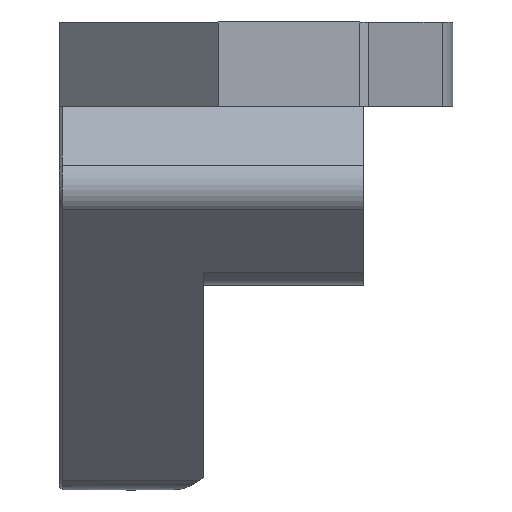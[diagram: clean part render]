
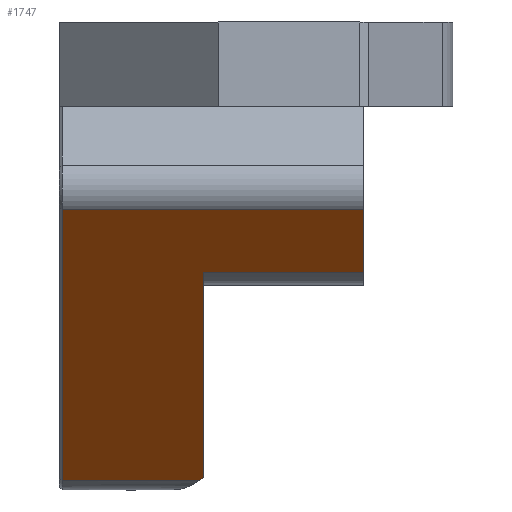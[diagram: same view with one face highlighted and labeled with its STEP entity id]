
A CAD part, left-side view. The second image highlights one B-rep face of the part: STEP entity #1747.
In plain terms, the highlighted planar face has unit normal (-0.707, 0, -0.707).
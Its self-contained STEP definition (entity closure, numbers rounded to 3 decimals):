
#27=ELLIPSE('',#1817,16.546,11.7);
#264=FACE_OUTER_BOUND('',#368,.T.);
#368=EDGE_LOOP('',(#1430,#1431,#1432,#1433,#1434,#1435,#1436));
#449=LINE('',#3348,#588);
#499=LINE('',#3504,#638);
#507=LINE('',#3522,#646);
#508=LINE('',#3525,#647);
#509=LINE('',#3527,#648);
#510=LINE('',#3528,#649);
#588=VECTOR('',#2038,10.);
#638=VECTOR('',#2192,10.);
#646=VECTOR('',#2210,10.);
#647=VECTOR('',#2215,10.);
#648=VECTOR('',#2216,10.);
#649=VECTOR('',#2217,10.);
#773=VERTEX_POINT('',#3321);
#774=VERTEX_POINT('',#3323);
#780=VERTEX_POINT('',#3347);
#833=VERTEX_POINT('',#3499);
#834=VERTEX_POINT('',#3503);
#839=VERTEX_POINT('',#3521);
#840=VERTEX_POINT('',#3526);
#967=EDGE_CURVE('',#774,#773,#27,.T.);
#974=EDGE_CURVE('',#773,#780,#449,.T.);
#1053=EDGE_CURVE('',#833,#834,#499,.T.);
#1062=EDGE_CURVE('',#834,#839,#507,.T.);
#1064=EDGE_CURVE('',#774,#833,#508,.T.);
#1065=EDGE_CURVE('',#840,#780,#509,.T.);
#1066=EDGE_CURVE('',#839,#840,#510,.T.);
#1430=ORIENTED_EDGE('',*,*,#1053,.F.);
#1431=ORIENTED_EDGE('',*,*,#1064,.F.);
#1432=ORIENTED_EDGE('',*,*,#967,.T.);
#1433=ORIENTED_EDGE('',*,*,#974,.T.);
#1434=ORIENTED_EDGE('',*,*,#1065,.F.);
#1435=ORIENTED_EDGE('',*,*,#1066,.F.);
#1436=ORIENTED_EDGE('',*,*,#1062,.F.);
#1678=PLANE('',#1880);
#1747=ADVANCED_FACE('',(#264),#1678,.T.);
#1817=AXIS2_PLACEMENT_3D('',#3324,#2027,#2028);
#1880=AXIS2_PLACEMENT_3D('',#3524,#2213,#2214);
#2027=DIRECTION('center_axis',(0.707,0.,0.707));
#2028=DIRECTION('ref_axis',(0.707,0.,-0.707));
#2038=DIRECTION('',(-0.707,0.,0.707));
#2192=DIRECTION('',(-0.707,0.,0.707));
#2210=DIRECTION('',(0.,-1.,0.));
#2213=DIRECTION('center_axis',(-0.707,0.,
-0.707));
#2214=DIRECTION('ref_axis',(0.707,0.,-0.707));
#2215=DIRECTION('',(0.,1.,0.));
#2216=DIRECTION('',(0.,1.,0.));
#2217=DIRECTION('',(0.707,0.,-0.707));
#3321=CARTESIAN_POINT('',(22.698,42.458,-1.687));
#3323=CARTESIAN_POINT('',(22.898,42.745,-1.887));
#3324=CARTESIAN_POINT('Origin',(32.397,35.913,-11.385));
#3347=CARTESIAN_POINT('',(8.775,42.458,12.237));
#3348=CARTESIAN_POINT('',(6.651,42.458,14.36));
#3499=CARTESIAN_POINT('',(22.898,52.008,-1.887));
#3503=CARTESIAN_POINT('',(4.55,52.008,16.462));
#3504=CARTESIAN_POINT('',(10.867,52.008,10.145));
#3521=CARTESIAN_POINT('',(4.55,31.62,16.462));
#3522=CARTESIAN_POINT('',(4.55,40.858,16.462));
#3524=CARTESIAN_POINT('Origin',(4.55,51.908,16.462));
#3525=CARTESIAN_POINT('',(22.898,50.261,-1.887));
#3526=CARTESIAN_POINT('',(8.775,31.62,12.237));
#3527=CARTESIAN_POINT('',(8.775,46.636,12.237));
#3528=CARTESIAN_POINT('',(10.867,31.62,10.145));
